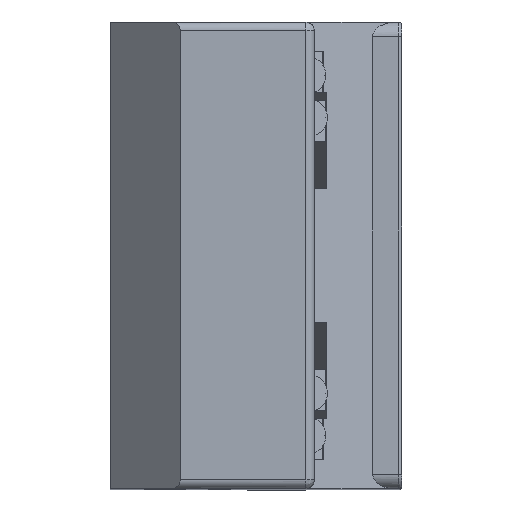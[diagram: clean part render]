
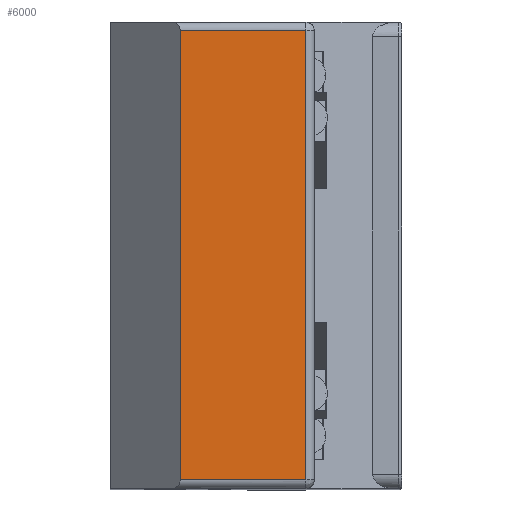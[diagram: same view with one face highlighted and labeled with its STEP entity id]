
A CAD part, top view. The second image highlights one B-rep face of the part: STEP entity #6000.
In plain terms, the highlighted planar face has unit normal (0, 0, 1).
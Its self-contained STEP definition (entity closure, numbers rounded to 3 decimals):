
#41 = DIRECTION ( 'NONE',  ( 1., 0., 0. ) ) ;
#1066 = CARTESIAN_POINT ( 'NONE',  ( -23.797, 3., 56.728 ) ) ;
#1397 = VECTOR ( 'NONE', #17113, 1000. ) ;
#1960 = VERTEX_POINT ( 'NONE', #10193 ) ;
#2936 = ORIENTED_EDGE ( 'NONE', *, *, #15549, .F. ) ;
#3242 = EDGE_CURVE ( 'NONE', #3297, #12374, #11745, .T. ) ;
#3297 = VERTEX_POINT ( 'NONE', #9800 ) ;
#3349 = VECTOR ( 'NONE', #41, 1000. ) ;
#6000 = ADVANCED_FACE ( 'NONE', ( #11870 ), #6247, .F. ) ;
#6187 = CARTESIAN_POINT ( 'NONE',  ( -23.797, 160., 56.728 ) ) ;
#6247 = PLANE ( 'NONE',  #6514 ) ;
#6363 = LINE ( 'NONE', #15013, #3349 ) ;
#6434 = EDGE_CURVE ( 'NONE', #1960, #3297, #13354, .T. ) ;
#6514 = AXIS2_PLACEMENT_3D ( 'NONE', #6187, #7738, #9029 ) ;
#6745 = DIRECTION ( 'NONE',  ( -1., 0., 0. ) ) ;
#7717 = ORIENTED_EDGE ( 'NONE', *, *, #6434, .F. ) ;
#7738 = DIRECTION ( 'NONE',  ( 0., 0., -1. ) ) ;
#8124 = VECTOR ( 'NONE', #6745, 1000. ) ;
#8130 = VECTOR ( 'NONE', #8376, 1000. ) ;
#8376 = DIRECTION ( 'NONE',  ( 0., -1., 0. ) ) ;
#9029 = DIRECTION ( 'NONE',  ( -1., 0., 0. ) ) ;
#9800 = CARTESIAN_POINT ( 'NONE',  ( 19.203, 3., 56.728 ) ) ;
#10193 = CARTESIAN_POINT ( 'NONE',  ( 19.203, 157., 56.728 ) ) ;
#10427 = CARTESIAN_POINT ( 'NONE',  ( 19.203, 160., 56.728 ) ) ;
#10778 = EDGE_CURVE ( 'NONE', #14203, #12374, #14107, .T. ) ;
#10816 = CARTESIAN_POINT ( 'NONE',  ( -23.797, 3., 56.728 ) ) ;
#11745 = LINE ( 'NONE', #10816, #8124 ) ;
#11870 = FACE_OUTER_BOUND ( 'NONE', #13231, .T. ) ;
#12374 = VERTEX_POINT ( 'NONE', #1066 ) ;
#13231 = EDGE_LOOP ( 'NONE', ( #2936, #14146, #13954, #7717 ) ) ;
#13354 = LINE ( 'NONE', #10427, #1397 ) ;
#13924 = CARTESIAN_POINT ( 'NONE',  ( -23.797, 155., 56.728 ) ) ;
#13954 = ORIENTED_EDGE ( 'NONE', *, *, #3242, .F. ) ;
#14107 = LINE ( 'NONE', #13924, #8130 ) ;
#14146 = ORIENTED_EDGE ( 'NONE', *, *, #10778, .T. ) ;
#14203 = VERTEX_POINT ( 'NONE', #15123 ) ;
#15013 = CARTESIAN_POINT ( 'NONE',  ( -23.797, 157., 56.728 ) ) ;
#15123 = CARTESIAN_POINT ( 'NONE',  ( -23.797, 157., 56.728 ) ) ;
#15549 = EDGE_CURVE ( 'NONE', #14203, #1960, #6363, .T. ) ;
#17113 = DIRECTION ( 'NONE',  ( 0., -1., 0. ) ) ;
